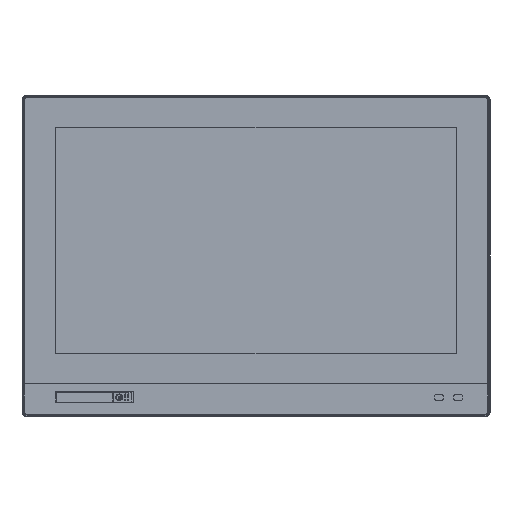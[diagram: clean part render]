
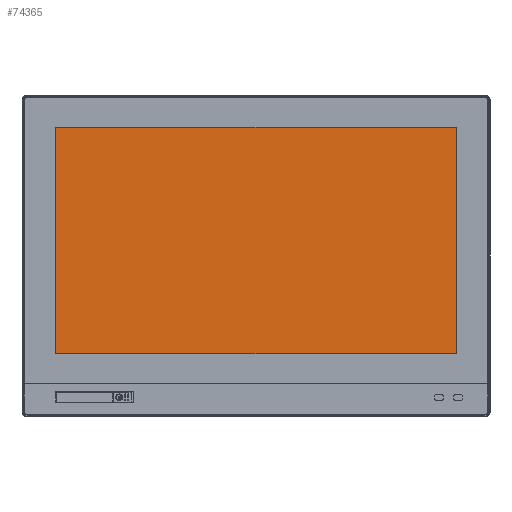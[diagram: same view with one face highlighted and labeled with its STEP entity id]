
A CAD part, top view. The second image highlights one B-rep face of the part: STEP entity #74365.
In plain terms, the highlighted planar face has unit normal (0, 0, 1).
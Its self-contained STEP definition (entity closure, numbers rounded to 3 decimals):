
#7633=DIRECTION('',(-1.,0.,0.));
#7634=VECTOR('',#7633,406.);
#7635=CARTESIAN_POINT('',(203.,116.5,2.));
#7636=LINE('',#7635,#7634);
#7637=CARTESIAN_POINT('',(203.,114.5,2.));
#7638=DIRECTION('',(0.,0.,-1.));
#7639=DIRECTION('',(0.,1.,0.));
#7640=AXIS2_PLACEMENT_3D('',#7637,#7638,#7639);
#7642=DIRECTION('',(0.,1.,0.));
#7643=VECTOR('',#7642,227.);
#7644=CARTESIAN_POINT('',(205.,-112.5,2.));
#7645=LINE('',#7644,#7643);
#7646=CARTESIAN_POINT('',(203.,-112.5,2.));
#7647=DIRECTION('',(0.,0.,-1.));
#7648=DIRECTION('',(1.,0.,0.));
#7649=AXIS2_PLACEMENT_3D('',#7646,#7647,#7648);
#7651=DIRECTION('',(1.,0.,0.));
#7652=VECTOR('',#7651,406.);
#7653=CARTESIAN_POINT('',(-203.,-114.5,2.));
#7654=LINE('',#7653,#7652);
#7655=CARTESIAN_POINT('',(-203.,-112.5,2.));
#7656=DIRECTION('',(0.,0.,-1.));
#7657=DIRECTION('',(0.,-1.,0.));
#7658=AXIS2_PLACEMENT_3D('',#7655,#7656,#7657);
#7660=DIRECTION('',(0.,-1.,0.));
#7661=VECTOR('',#7660,227.);
#7662=CARTESIAN_POINT('',(-205.,114.5,2.));
#7663=LINE('',#7662,#7661);
#7664=CARTESIAN_POINT('',(-203.,114.5,2.));
#7665=DIRECTION('',(0.,0.,-1.));
#7666=DIRECTION('',(-1.,0.,0.));
#7667=AXIS2_PLACEMENT_3D('',#7664,#7665,#7666);
#63152=CARTESIAN_POINT('',(203.,116.5,2.));
#63153=CARTESIAN_POINT('',(-203.,116.5,2.));
#63154=VERTEX_POINT('',#63152);
#63155=VERTEX_POINT('',#63153);
#63156=CARTESIAN_POINT('',(-205.,114.5,2.));
#63157=CARTESIAN_POINT('',(-205.,-112.5,2.));
#63158=VERTEX_POINT('',#63156);
#63159=VERTEX_POINT('',#63157);
#63160=CARTESIAN_POINT('',(-203.,-114.5,2.));
#63161=CARTESIAN_POINT('',(203.,-114.5,2.));
#63162=VERTEX_POINT('',#63160);
#63163=VERTEX_POINT('',#63161);
#63164=CARTESIAN_POINT('',(205.,-112.5,2.));
#63165=CARTESIAN_POINT('',(205.,114.5,2.));
#63166=VERTEX_POINT('',#63164);
#63167=VERTEX_POINT('',#63165);
#74342=CARTESIAN_POINT('',(0.,0.,2.));
#74343=DIRECTION('',(0.,0.,1.));
#74344=DIRECTION('',(1.,0.,0.));
#74345=AXIS2_PLACEMENT_3D('',#74342,#74343,#74344);
#74346=PLANE('',#74345);
#74348=ORIENTED_EDGE('',*,*,#74347,.F.);
#74350=ORIENTED_EDGE('',*,*,#74349,.T.);
#74352=ORIENTED_EDGE('',*,*,#74351,.F.);
#74354=ORIENTED_EDGE('',*,*,#74353,.T.);
#74356=ORIENTED_EDGE('',*,*,#74355,.F.);
#74358=ORIENTED_EDGE('',*,*,#74357,.T.);
#74360=ORIENTED_EDGE('',*,*,#74359,.F.);
#74362=ORIENTED_EDGE('',*,*,#74361,.T.);
#74363=EDGE_LOOP('',(#74348,#74350,#74352,#74354,#74356,#74358,#74360,#74362));
#74364=FACE_OUTER_BOUND('',#74363,.F.);
#74365=ADVANCED_FACE('',(#74364),#74346,.T.);
#7641=CIRCLE('',#7640,2.);
#7650=CIRCLE('',#7649,2.);
#7659=CIRCLE('',#7658,2.);
#7668=CIRCLE('',#7667,2.);
#74347=EDGE_CURVE('',#63154,#63155,#7636,.T.);
#74349=EDGE_CURVE('',#63154,#63167,#7641,.T.);
#74351=EDGE_CURVE('',#63166,#63167,#7645,.T.);
#74353=EDGE_CURVE('',#63166,#63163,#7650,.T.);
#74355=EDGE_CURVE('',#63162,#63163,#7654,.T.);
#74357=EDGE_CURVE('',#63162,#63159,#7659,.T.);
#74359=EDGE_CURVE('',#63158,#63159,#7663,.T.);
#74361=EDGE_CURVE('',#63158,#63155,#7668,.T.);
